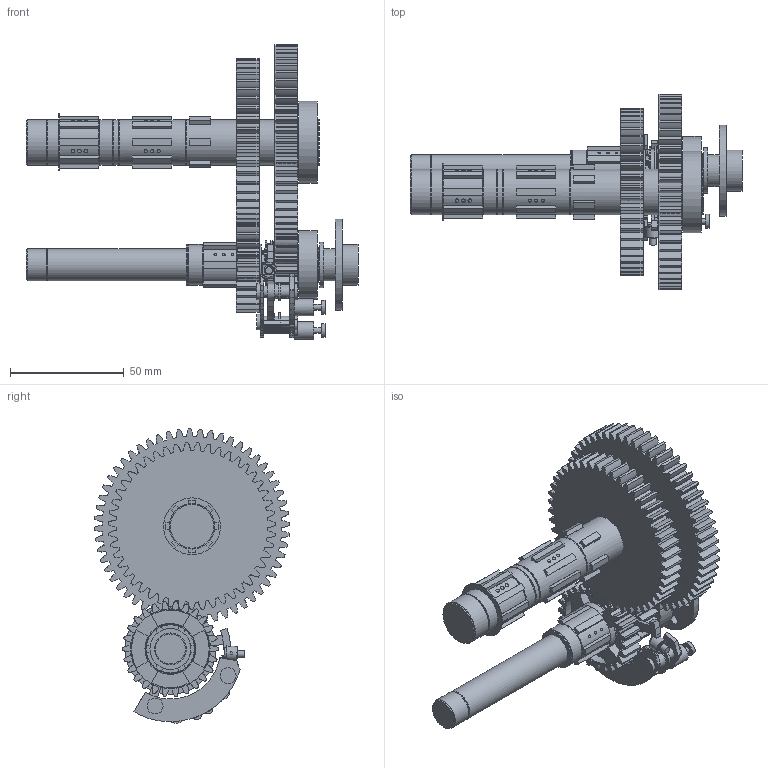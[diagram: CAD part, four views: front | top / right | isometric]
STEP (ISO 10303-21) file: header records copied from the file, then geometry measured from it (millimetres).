
FILE_DESCRIPTION(('Open CASCADE Model'),'2;1');
FILE_NAME('R12_B3_MID','2026-09-28T18:34:41',('Author'),('Open CASCADE') ,'Open CASCADE STEP processor 7.9','build123d','Unknown');
FILE_SCHEMA(('AUTOMOTIVE_DESIGN { 1 0 10303 214 1 1 1 1 }'));
Length unit declared in the file: millimetre
Products named in the file (33): R12_B3_MID; B3_R12_12x14_flanged_plain_bush; B3_R12_bush_boundary_C_clip; B3_R12_case_mount_M3_1; B3_R12_case_mount_M3_2; B3_R12_follower_keeper; B3_R12_free_17T_end_face_windows; B3_R12_front_support_and_carrier; B3_R12_guide_1_left_retainer; B3_R12_guide_1_right_retainer; B3_R12_guide_2_left_retainer; B3_R12_guide_2_right_retainer; B3_R12_guide_rod_1_with_stop; B3_R12_guide_rod_2_with_stop; B3_R12_radial_follower_pin; B3_R12_rear_support_M3_1; B3_R12_rear_support_M3_2; B3_R12_removable_rear_support; B3_R12_U_axis_single_sided_dog; B3_R12_U_axis_two_foot_fork; output_R12_detachable_R7_external_flange; output_R12_M5_retainer_thread_envelope; U_R12_local_12mm_shaft; U_R12_removable_original_bearing_seal_land; B3_driver_56T; B3_driver_56T_key; intermediate_shaft_1_R6_B12_local_segment; B2_C2_PAIRED_driver_47T; B2_C2_PAIRED_free_26T; U_right_bearing; U_right_retaining_ring; U_right_shaft_seal; I_right_bearing
Assembly tree (32 placements, depth 2):
  R12_B3_MID
    B3_R12_12x14_flanged_plain_bush
    B3_R12_bush_boundary_C_clip
    B3_R12_case_mount_M3_1
    B3_R12_case_mount_M3_2
    B3_R12_follower_keeper
    B3_R12_free_17T_end_face_windows
    B3_R12_front_support_and_carrier
    B3_R12_guide_1_left_retainer
    B3_R12_guide_1_right_retainer
    B3_R12_guide_2_left_retainer
    B3_R12_guide_2_right_retainer
    B3_R12_guide_rod_1_with_stop
    B3_R12_guide_rod_2_with_stop
    B3_R12_radial_follower_pin
    B3_R12_rear_support_M3_1
    B3_R12_rear_support_M3_2
    B3_R12_removable_rear_support
    B3_R12_U_axis_single_sided_dog
    B3_R12_U_axis_two_foot_fork
    output_R12_detachable_R7_external_flange
    output_R12_M5_retainer_thread_envelope
    U_R12_local_12mm_shaft
    U_R12_removable_original_bearing_seal_land
    B3_driver_56T
    B3_driver_56T_key
    intermediate_shaft_1_R6_B12_local_segment
    B2_C2_PAIRED_driver_47T
    B2_C2_PAIRED_free_26T
    U_right_bearing
    U_right_retaining_ring
    U_right_shaft_seal
    I_right_bearing
Bounding box: 146 x 85.79 x 129.51 mm (x, y, z)
Volume: 183051 mm3; surface area: 75882.7 mm2
Topology: 32 solids, 32 shells, 2382 faces, 6416 edges, 4219 vertices
Faces by surface type: plane 1557, cylinder 484, extrusion 292, sphere 33, cone 16
Full cylindrical faces by diameter (mm): 1.2 x1, 1.3 x3, 2 x4, 2.1 x4, 2.4 x2, 2.5 x2, 2.6 x2, 3 x1, 4 x2, 4.06 x1, 4.2 x1, 4.4 x6, 4.6 x2, 4.8 x1, 5 x4, 5.08 x6, 5.5 x1, 6 x2, 6.4 x1, 7 x4, 7.4 x2, 7.6 x2, 8 x2, 8.5 x1, 8.7 x1, 11.6 x1, 12 x2, 12.05 x2, 13.2 x4, 14 x7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
Entity records: 217743 total; most frequent: CARTESIAN_POINT 88190, DIRECTION 23338, VECTOR 15915, LINE 15623, ORIENTED_EDGE 12802, PCURVE 12802, DEFINITIONAL_REPRESENTATION 12802, EDGE_CURVE 6401
